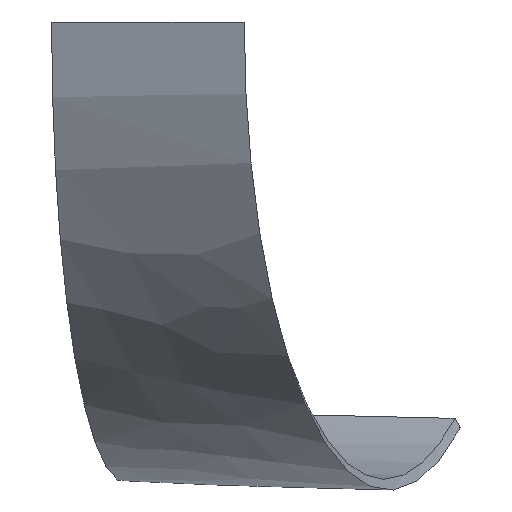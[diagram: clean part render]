
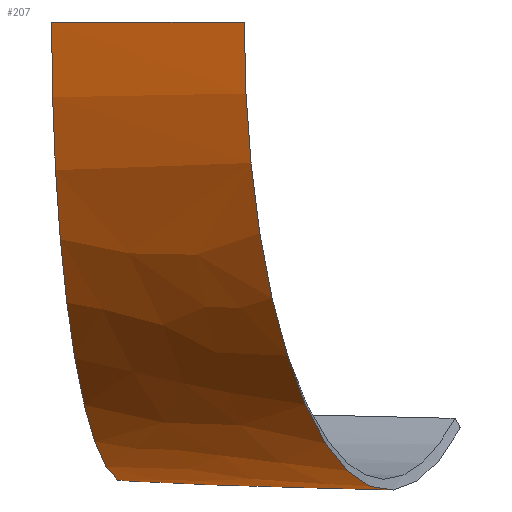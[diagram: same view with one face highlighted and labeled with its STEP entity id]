
A CAD part, left-side view. The second image highlights one B-rep face of the part: STEP entity #207.
In plain terms, the highlighted free-form (B-spline) face has degree [3, 3] with [13, 4] control points.
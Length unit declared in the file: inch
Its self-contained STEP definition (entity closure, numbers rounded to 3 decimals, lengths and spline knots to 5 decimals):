
#36 = CARTESIAN_POINT ( 'NONE',  ( 94.11284, -14.89434, -20.73485 ) ) ;
#46 = CARTESIAN_POINT ( 'NONE',  ( 95.41922, -25.52277, -25.03059 ) ) ;
#55 = CARTESIAN_POINT ( 'NONE',  ( 100.11896, -26.78351, -27.84755 ) ) ;
#62 = CARTESIAN_POINT ( 'NONE',  ( 131.04266, -35.07724, -27.87911 ) ) ;
#64 = CARTESIAN_POINT ( 'NONE',  ( 134.15152, -21.32034, -27.55527 ) ) ;
#71 = CARTESIAN_POINT ( 'NONE',  ( 83.37715, -27.05505, -0.06398 ) ) ;
#97 = CARTESIAN_POINT ( 'NONE',  ( 83.38782, -27.05849, -5.73035 ) ) ;
#102 = B_SPLINE_CURVE_WITH_KNOTS ( 'NONE', 3,
 ( #1153, #796, #552, #36, #177, #391, #1391, #772, #533, #570 ),
 .UNSPECIFIED., .F., .F.,
 ( 4, 2, 2, 2, 4 ),
 ( 0., 0.25, 0.5, 0.75, 1. ),
 .UNSPECIFIED. ) ;
#155 = EDGE_LOOP ( 'NONE', ( #403, #1573, #265, #910 ) ) ;
#170 = CARTESIAN_POINT ( 'NONE',  ( 112.98742, -17.92425, -31.77494 ) ) ;
#177 = CARTESIAN_POINT ( 'NONE',  ( 98.06735, -15.52928, -24.73726 ) ) ;
#195 = CARTESIAN_POINT ( 'NONE',  ( 103.43416, -33.53759, -30.84377 ) ) ;
#203 = CARTESIAN_POINT ( 'NONE',  ( 117.03074, -24.86806, -31.9684 ) ) ;
#207 = ADVANCED_FACE ( 'NONE', ( #1440 ), #1248, .T. ) ;
#210 = CARTESIAN_POINT ( 'NONE',  ( 103.43416, -33.53759, -30.84377 ) ) ;
#238 = CARTESIAN_POINT ( 'NONE',  ( 87.34347, -18.51351, -11.16333 ) ) ;
#246 = CARTESIAN_POINT ( 'NONE',  ( 88.79694, -23.74593, -16.10502 ) ) ;
#265 = ORIENTED_EDGE ( 'NONE', *, *, #1193, .T. ) ;
#293 = CARTESIAN_POINT ( 'NONE',  ( 132.5971, -28.19879, -27.71718 ) ) ;
#303 = CARTESIAN_POINT ( 'NONE',  ( 92.81378, -19.68476, -20.8579 ) ) ;
#312 = CARTESIAN_POINT ( 'NONE',  ( 98.06735, -15.52928, -24.73726 ) ) ;
#320 = CARTESIAN_POINT ( 'NONE',  ( 122.49295, -26.03693, -31.97413 ) ) ;
#327 = CARTESIAN_POINT ( 'NONE',  ( 90.21563, -29.26559, -21.10393 ) ) ;
#360 = CARTESIAN_POINT ( 'NONE',  ( 84.63214, -22.62835, -0.06399 ) ) ;
#391 = CARTESIAN_POINT ( 'NONE',  ( 107.5877, -17.05757, -30.30593 ) ) ;
#403 = ORIENTED_EDGE ( 'NONE', *, *, #1363, .T. ) ;
#414 = CARTESIAN_POINT ( 'NONE',  ( 108.73069, -35.24908, -32.33807 ) ) ;
#421 = CARTESIAN_POINT ( 'NONE',  ( 98.76465, -32.02855, -28.0105 ) ) ;
#467 = CARTESIAN_POINT ( 'NONE',  ( 87.15319, -13.77673, -5.63079 ) ) ;
#491 = CARTESIAN_POINT ( 'NONE',  ( 134.15152, -21.32034, -27.55527 ) ) ;
#533 = CARTESIAN_POINT ( 'NONE',  ( 129.38514, -20.55562, -30.32952 ) ) ;
#538 = VERTEX_POINT ( 'NONE', #958 ) ;
#544 = CARTESIAN_POINT ( 'NONE',  ( 114.12264, -36.99126, -32.34339 ) ) ;
#552 = CARTESIAN_POINT ( 'NONE',  ( 88.60776, -14.01035, -11.09753 ) ) ;
#561 = CARTESIAN_POINT ( 'NONE',  ( 124.81371, -40.44548, -30.86489 ) ) ;
#563 = CARTESIAN_POINT ( 'NONE',  ( 107.5877, -17.05757, -30.30593 ) ) ;
#570 = CARTESIAN_POINT ( 'NONE',  ( 134.15152, -21.32034, -27.55527 ) ) ;
#572 = CARTESIAN_POINT ( 'NONE',  ( 119.51459, -38.73343, -32.34872 ) ) ;
#578 = EDGE_CURVE ( 'NONE', #1126, #538, #1428, .T. ) ;
#580 = CARTESIAN_POINT ( 'NONE',  ( 129.48821, -41.95568, -28.04104 ) ) ;
#599 = CARTESIAN_POINT ( 'NONE',  ( 83.37715, -27.05505, -0.06398 ) ) ;
#607 = CARTESIAN_POINT ( 'NONE',  ( 84.64294, -22.63124, -5.69717 ) ) ;
#641 = B_SPLINE_CURVE_WITH_KNOTS ( 'NONE', 3,
 ( #1213, #824, #62, #580 ),
 .UNSPECIFIED., .F., .F.,
 ( 4, 4 ),
 ( 0., 1. ),
 .UNSPECIFIED. ) ;
#655 = CARTESIAN_POINT ( 'NONE',  ( 83.37715, -27.05505, -0.06398 ) ) ;
#665 = CARTESIAN_POINT ( 'NONE',  ( 101.47325, -21.53847, -27.68458 ) ) ;
#675 = CARTESIAN_POINT ( 'NONE',  ( 129.48821, -41.95568, -28.04104 ) ) ;
#695 = CARTESIAN_POINT ( 'NONE',  ( 104.81869, -28.04426, -30.6645 ) ) ;
#709 = CARTESIAN_POINT ( 'NONE',  ( 129.48821, -41.95568, -28.04104 ) ) ;
#711 = CARTESIAN_POINT ( 'NONE',  ( 87.51525, -28.39271, -16.19941 ) ) ;
#717 = CARTESIAN_POINT ( 'NONE',  ( 108.73069, -35.24908, -32.33807 ) ) ;
#743 = CARTESIAN_POINT ( 'NONE',  ( 83.37715, -27.05505, -0.06398 ) ) ;
#772 = CARTESIAN_POINT ( 'NONE',  ( 123.9821, -19.68867, -31.78684 ) ) ;
#790 = CARTESIAN_POINT ( 'NONE',  ( 127.86135, -27.18558, -30.50797 ) ) ;
#796 = CARTESIAN_POINT ( 'NONE',  ( 87.15319, -13.77673, -5.63079 ) ) ;
#798 = CARTESIAN_POINT ( 'NONE',  ( 94.11284, -14.89434, -20.73485 ) ) ;
#805 = CARTESIAN_POINT ( 'NONE',  ( 119.51459, -38.73343, -32.34872 ) ) ;
#807 = CARTESIAN_POINT ( 'NONE',  ( 96.74329, -20.52603, -24.88393 ) ) ;
#816 = CARTESIAN_POINT ( 'NONE',  ( 123.9821, -19.68867, -31.78684 ) ) ;
#824 = CARTESIAN_POINT ( 'NONE',  ( 132.5971, -28.19879, -27.71718 ) ) ;
#849 = CARTESIAN_POINT ( 'NONE',  ( 87.14212, -13.77495, -0.064 ) ) ;
#858 = CARTESIAN_POINT ( 'NONE',  ( 90.07862, -19.09914, -16.01061 ) ) ;
#889 = VERTEX_POINT ( 'NONE', #491 ) ;
#907 = CARTESIAN_POINT ( 'NONE',  ( 106.20321, -22.55092, -30.48522 ) ) ;
#910 = ORIENTED_EDGE ( 'NONE', *, *, #1267, .T. ) ;
#917 = CARTESIAN_POINT ( 'NONE',  ( 90.21563, -29.26559, -21.10393 ) ) ;
#934 = CARTESIAN_POINT ( 'NONE',  ( 124.81371, -40.44548, -30.86489 ) ) ;
#958 = CARTESIAN_POINT ( 'NONE',  ( 87.14212, -13.77495, -0.064 ) ) ;
#959 = CARTESIAN_POINT ( 'NONE',  ( 84.81486, -27.51984, -11.29489 ) ) ;
#969 = CARTESIAN_POINT ( 'NONE',  ( 86.07917, -23.01668, -11.22912 ) ) ;
#986 = CARTESIAN_POINT ( 'NONE',  ( 84.81486, -27.51984, -11.29489 ) ) ;
#1041 = CARTESIAN_POINT ( 'NONE',  ( 121.00378, -32.38518, -32.16143 ) ) ;
#1051 = CARTESIAN_POINT ( 'NONE',  ( 94.09514, -30.51951, -25.17724 ) ) ;
#1087 = CARTESIAN_POINT ( 'NONE',  ( 87.14212, -13.77495, -0.064 ) ) ;
#1108 = CARTESIAN_POINT ( 'NONE',  ( 91.3603, -14.45234, -15.91619 ) ) ;
#1126 = VERTEX_POINT ( 'NONE', #655 ) ;
#1153 = CARTESIAN_POINT ( 'NONE',  ( 87.14212, -13.77495, -0.064 ) ) ;
#1161 = CARTESIAN_POINT ( 'NONE',  ( 102.82752, -16.29343, -27.52159 ) ) ;
#1170 = CARTESIAN_POINT ( 'NONE',  ( 129.38514, -20.55562, -30.32952 ) ) ;
#1193 = EDGE_CURVE ( 'NONE', #538, #889, #102, .T. ) ;
#1213 = CARTESIAN_POINT ( 'NONE',  ( 134.15152, -21.32034, -27.55527 ) ) ;
#1221 = CARTESIAN_POINT ( 'NONE',  ( 85.88713, -18.20165, -0.06399 ) ) ;
#1248 = B_SPLINE_SURFACE_WITH_KNOTS ( 'NONE', 3, 3, ( 
 ( #675, #1532, #293, #64 ),
 ( #934, #1450, #790, #1170 ),
 ( #572, #1041, #320, #816 ),
 ( #544, #1324, #203, #1315 ),
 ( #414, #1423, #1284, #170 ),
 ( #195, #695, #907, #563 ),
 ( #421, #55, #665, #1161 ),
 ( #1051, #46, #807, #312 ),
 ( #917, #1552, #303, #798 ),
 ( #711, #246, #858, #1108 ),
 ( #986, #969, #238, #1350 ),
 ( #1586, #607, #1333, #467 ),
 ( #743, #360, #1221, #849 ) ),
 .UNSPECIFIED., .F., .F., .F.,
 ( 4, 3, 3, 3, 4 ),
 ( 4, 4 ),
 ( 0., 0.25, 0.5, 0.75, 1. ),
 ( 0., 1. ),
 .UNSPECIFIED. ) ;
#1267 = EDGE_CURVE ( 'NONE', #889, #1460, #641, .T. ) ;
#1284 = CARTESIAN_POINT ( 'NONE',  ( 111.56853, -23.6992, -31.96266 ) ) ;
#1315 = CARTESIAN_POINT ( 'NONE',  ( 118.48476, -18.80646, -31.78089 ) ) ;
#1324 = CARTESIAN_POINT ( 'NONE',  ( 115.5767, -30.92966, -32.1559 ) ) ;
#1331 = CARTESIAN_POINT ( 'NONE',  ( 129.48821, -41.95568, -28.04104 ) ) ;
#1333 = CARTESIAN_POINT ( 'NONE',  ( 85.89806, -18.20398, -5.66398 ) ) ;
#1335 = CARTESIAN_POINT ( 'NONE',  ( 85.88713, -18.20165, -0.06399 ) ) ;
#1350 = CARTESIAN_POINT ( 'NONE',  ( 88.60776, -14.01035, -11.09753 ) ) ;
#1363 = EDGE_CURVE ( 'NONE', #1460, #1126, #1389, .T. ) ;
#1389 = B_SPLINE_CURVE_WITH_KNOTS ( 'NONE', 3,
 ( #1331, #561, #805, #717, #210, #1559, #327, #959, #97, #71 ),
 .UNSPECIFIED., .F., .F.,
 ( 4, 2, 2, 2, 4 ),
 ( 0., 0.25, 0.5, 0.75, 1. ),
 .UNSPECIFIED. ) ;
#1391 = CARTESIAN_POINT ( 'NONE',  ( 112.98742, -17.92425, -31.77494 ) ) ;
#1423 = CARTESIAN_POINT ( 'NONE',  ( 110.14962, -29.47414, -32.15037 ) ) ;
#1428 = B_SPLINE_CURVE_WITH_KNOTS ( 'NONE', 3,
 ( #599, #1588, #1335, #1087 ),
 .UNSPECIFIED., .F., .F.,
 ( 4, 4 ),
 ( 0., 1. ),
 .UNSPECIFIED. ) ;
#1440 = FACE_OUTER_BOUND ( 'NONE', #155, .T. ) ;
#1450 = CARTESIAN_POINT ( 'NONE',  ( 126.33754, -33.81553, -30.68643 ) ) ;
#1460 = VERTEX_POINT ( 'NONE', #709 ) ;
#1532 = CARTESIAN_POINT ( 'NONE',  ( 131.04266, -35.07724, -27.87911 ) ) ;
#1552 = CARTESIAN_POINT ( 'NONE',  ( 91.51471, -24.47517, -20.98092 ) ) ;
#1559 = CARTESIAN_POINT ( 'NONE',  ( 94.09514, -30.51951, -25.17724 ) ) ;
#1573 = ORIENTED_EDGE ( 'NONE', *, *, #578, .T. ) ;
#1586 = CARTESIAN_POINT ( 'NONE',  ( 83.38782, -27.05849, -5.73035 ) ) ;
#1588 = CARTESIAN_POINT ( 'NONE',  ( 84.63214, -22.62835, -0.06399 ) ) ;
